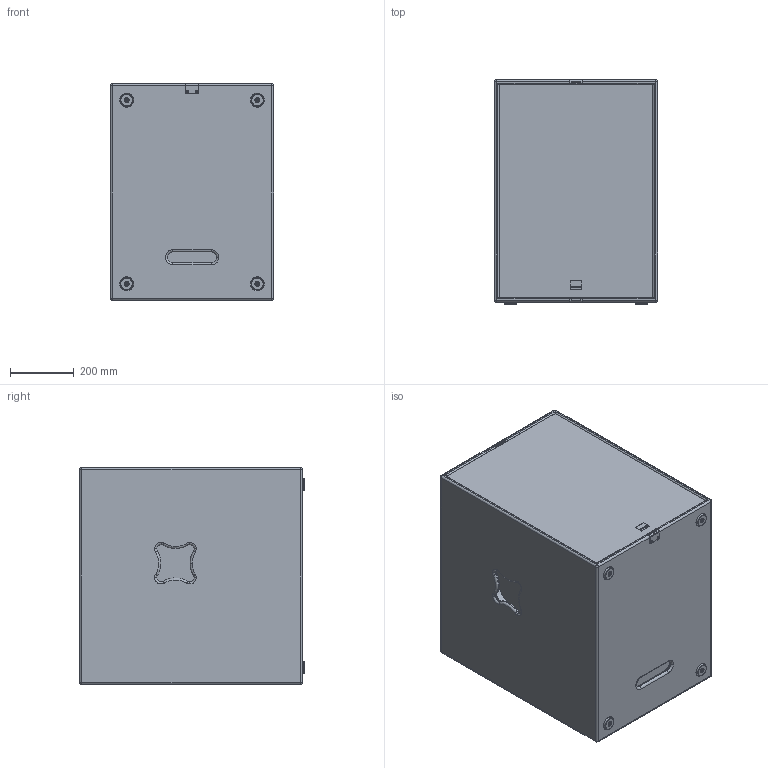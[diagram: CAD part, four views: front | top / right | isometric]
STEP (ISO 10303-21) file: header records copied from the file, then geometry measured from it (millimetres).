
FILE_DESCRIPTION (( 'STEP AP203' ), '1' );
FILE_NAME ('Seeburg_TSE-Sub-GV.STEP', '2012-10-17T11:23:03', ( 'Fabian' ), ( '' ), 'SwSTEP 2.0', 'SolidWorks 2009', '' );
FILE_SCHEMA (( 'CONFIG_CONTROL_DESIGN' ));
Length unit declared in the file: millimetre
Products named in the file (2): Seeburg_TSE-Sub-GV; TSE-Sub-GV
Assembly tree (1 placements, depth 2):
  Seeburg_TSE-Sub-GV
    TSE-Sub-GV
Bounding box: 512 x 704 x 680 mm (x, y, z)
Volume: 35642764.2 mm3; surface area: 4953453.2 mm2
Topology: 19 solids, 19 shells, 691 faces, 1719 edges, 1092 vertices
Faces by surface type: cylinder 270, plane 237, torus 116, cone 56, sphere 12
Entity records: 24007 total; most frequent: CARTESIAN_POINT 7074, DIRECTION 3679, ORIENTED_EDGE 3422, EDGE_CURVE 1711, AXIS2_PLACEMENT_3D 1433, VERTEX_POINT 1088, VECTOR 813, LINE 813
